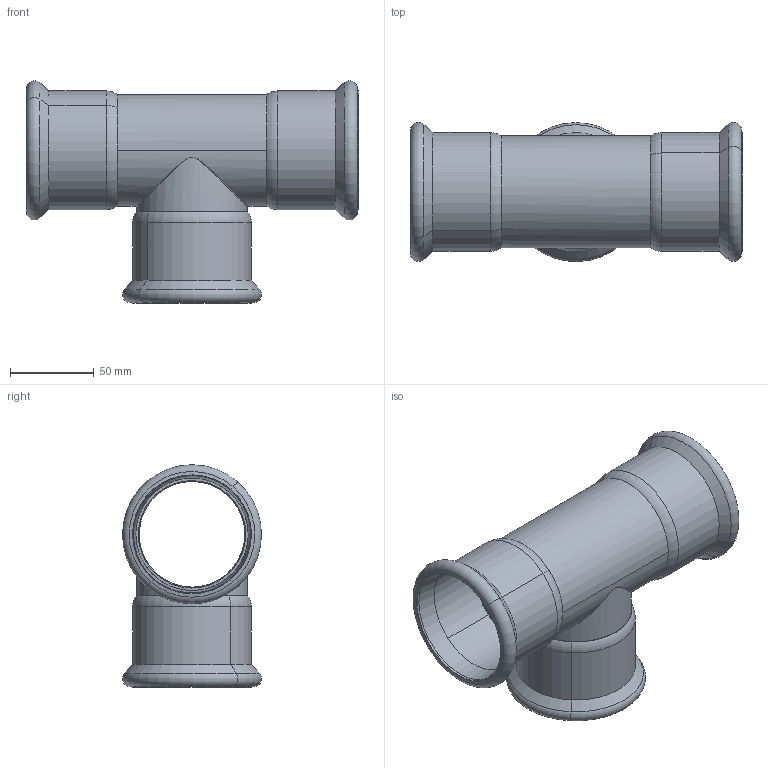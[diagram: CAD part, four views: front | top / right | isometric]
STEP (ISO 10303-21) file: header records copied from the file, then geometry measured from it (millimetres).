
FILE_DESCRIPTION(('CoCreate Modeling STEP Export'),'2;1');
FILE_NAME('C1414 67x67x67.stp','2014-10-23T15:55:59',(''),(''),'CoCreate Modeling STEP processor for AP214 (Solid Model)','CoCreate Modeling 17.00A 17-Jun-2010 (C) Parametric Technology GmbH','');
FILE_SCHEMA(('AUTOMOTIVE_DESIGN { 1 0 10303 214 1 1 1 1 }'));
Length unit declared in the file: millimetre
Products named in the file (2): T_STUK_67mm
Assembly tree (1 placements, depth 2):
  T_STUK_67mm
    T_STUK_67mm
Bounding box: 198.08 x 82.91 x 132.65 mm (x, y, z)
Volume: 131963.7 mm3; surface area: 113255 mm2
Topology: 1 solids, 1 shells, 94 faces, 230 edges, 143 vertices
Faces by surface type: cylinder 34, cone 30, torus 18, plane 8, bspline 4
Entity records: 8624 total; most frequent: CARTESIAN_POINT 6784, ORIENTED_EDGE 460, DIRECTION 298, EDGE_CURVE 230, VERTEX_POINT 143, AXIS2_PLACEMENT_3D 117, EDGE_LOOP 103, FACE_OUTER_BOUND 94
